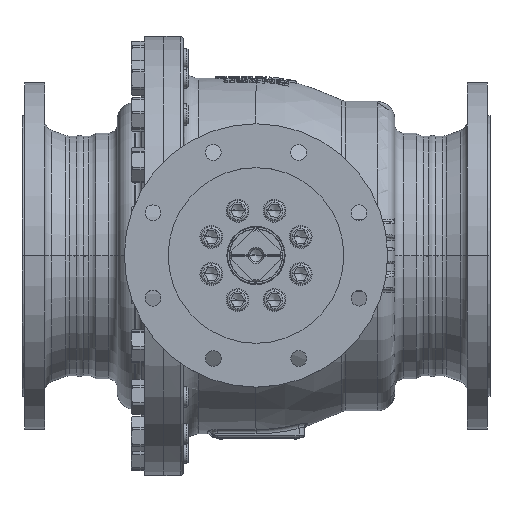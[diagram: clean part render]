
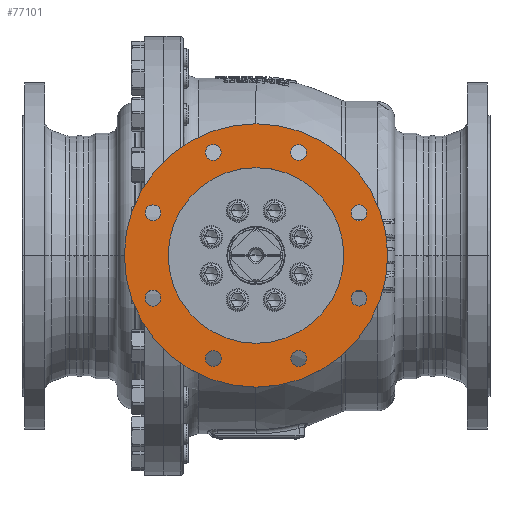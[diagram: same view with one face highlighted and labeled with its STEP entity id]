
A CAD part, top view. The second image highlights one B-rep face of the part: STEP entity #77101.
In plain terms, the highlighted planar face has unit normal (0, 0, 1).
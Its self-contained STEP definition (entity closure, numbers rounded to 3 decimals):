
#8684=CARTESIAN_POINT('',(0.,0.,349.));
#8685=DIRECTION('',(0.,0.,1.));
#8686=DIRECTION('',(1.,0.,0.));
#8687=AXIS2_PLACEMENT_3D('',#8684,#8685,#8686);
#8689=CARTESIAN_POINT('',(0.,0.,349.));
#8690=DIRECTION('',(0.,0.,-1.));
#8691=DIRECTION('',(1.,0.,0.));
#8692=AXIS2_PLACEMENT_3D('',#8689,#8690,#8691);
#8694=CARTESIAN_POINT('',(-117.333,48.601,349.));
#8695=DIRECTION('',(0.,0.,-1.));
#8696=DIRECTION('',(-1.,0.,0.));
#8697=AXIS2_PLACEMENT_3D('',#8694,#8695,#8696);
#8699=CARTESIAN_POINT('',(-117.333,48.601,349.));
#8700=DIRECTION('',(0.,0.,-1.));
#8701=DIRECTION('',(1.,0.,0.));
#8702=AXIS2_PLACEMENT_3D('',#8699,#8700,#8701);
#8704=CARTESIAN_POINT('',(-48.601,117.333,349.));
#8705=DIRECTION('',(0.,0.,-1.));
#8706=DIRECTION('',(-0.707,0.707,0.));
#8707=AXIS2_PLACEMENT_3D('',#8704,#8705,#8706);
#8709=CARTESIAN_POINT('',(-48.601,117.333,349.));
#8710=DIRECTION('',(0.,0.,-1.));
#8711=DIRECTION('',(0.707,-0.707,0.));
#8712=AXIS2_PLACEMENT_3D('',#8709,#8710,#8711);
#8714=CARTESIAN_POINT('',(48.601,117.333,349.));
#8715=DIRECTION('',(0.,0.,-1.));
#8716=DIRECTION('',(0.,1.,0.));
#8717=AXIS2_PLACEMENT_3D('',#8714,#8715,#8716);
#8719=CARTESIAN_POINT('',(48.601,117.333,349.));
#8720=DIRECTION('',(0.,0.,-1.));
#8721=DIRECTION('',(0.,-1.,0.));
#8722=AXIS2_PLACEMENT_3D('',#8719,#8720,#8721);
#8724=CARTESIAN_POINT('',(117.333,48.601,349.));
#8725=DIRECTION('',(0.,0.,-1.));
#8726=DIRECTION('',(0.707,0.707,0.));
#8727=AXIS2_PLACEMENT_3D('',#8724,#8725,#8726);
#8729=CARTESIAN_POINT('',(117.333,48.601,349.));
#8730=DIRECTION('',(0.,0.,-1.));
#8731=DIRECTION('',(-0.707,-0.707,0.));
#8732=AXIS2_PLACEMENT_3D('',#8729,#8730,#8731);
#8734=CARTESIAN_POINT('',(117.333,-48.601,349.));
#8735=DIRECTION('',(0.,0.,-1.));
#8736=DIRECTION('',(1.,0.,0.));
#8737=AXIS2_PLACEMENT_3D('',#8734,#8735,#8736);
#8739=CARTESIAN_POINT('',(117.333,-48.601,349.));
#8740=DIRECTION('',(0.,0.,-1.));
#8741=DIRECTION('',(-1.,0.,0.));
#8742=AXIS2_PLACEMENT_3D('',#8739,#8740,#8741);
#8744=CARTESIAN_POINT('',(48.601,-117.333,349.));
#8745=DIRECTION('',(0.,0.,-1.));
#8746=DIRECTION('',(0.707,-0.707,0.));
#8747=AXIS2_PLACEMENT_3D('',#8744,#8745,#8746);
#8749=CARTESIAN_POINT('',(48.601,-117.333,349.));
#8750=DIRECTION('',(0.,0.,-1.));
#8751=DIRECTION('',(-0.707,0.707,0.));
#8752=AXIS2_PLACEMENT_3D('',#8749,#8750,#8751);
#8754=CARTESIAN_POINT('',(-48.601,-117.333,349.));
#8755=DIRECTION('',(0.,0.,-1.));
#8756=DIRECTION('',(0.,-1.,0.));
#8757=AXIS2_PLACEMENT_3D('',#8754,#8755,#8756);
#8759=CARTESIAN_POINT('',(-48.601,-117.333,349.));
#8760=DIRECTION('',(0.,0.,-1.));
#8761=DIRECTION('',(0.,1.,0.));
#8762=AXIS2_PLACEMENT_3D('',#8759,#8760,#8761);
#8764=CARTESIAN_POINT('',(-117.333,-48.601,349.));
#8765=DIRECTION('',(0.,0.,-1.));
#8766=DIRECTION('',(-0.707,-0.707,0.));
#8767=AXIS2_PLACEMENT_3D('',#8764,#8765,#8766);
#8769=CARTESIAN_POINT('',(-117.333,-48.601,349.));
#8770=DIRECTION('',(0.,0.,-1.));
#8771=DIRECTION('',(0.707,0.707,0.));
#8772=AXIS2_PLACEMENT_3D('',#8769,#8770,#8771);
#8778=CARTESIAN_POINT('',(0.,0.,349.));
#8779=DIRECTION('',(0.,0.,-1.));
#8780=DIRECTION('',(1.,0.,0.));
#8781=AXIS2_PLACEMENT_3D('',#8778,#8779,#8780);
#8787=CARTESIAN_POINT('',(0.,0.,349.));
#8788=DIRECTION('',(0.,0.,1.));
#8789=DIRECTION('',(1.,0.,0.));
#8790=AXIS2_PLACEMENT_3D('',#8787,#8788,#8789);
#61461=CARTESIAN_POINT('',(100.,0.,349.));
#61463=VERTEX_POINT('',#61461);
#61465=CARTESIAN_POINT('',(-100.,0.,349.));
#61467=VERTEX_POINT('',#61465);
#61469=CARTESIAN_POINT('',(150.,0.,349.));
#61470=CARTESIAN_POINT('',(-150.,0.,349.));
#61471=VERTEX_POINT('',#61469);
#61472=VERTEX_POINT('',#61470);
#61605=CARTESIAN_POINT('',(-126.333,48.601,349.));
#61606=CARTESIAN_POINT('',(-108.333,48.601,349.));
#61607=VERTEX_POINT('',#61605);
#61608=VERTEX_POINT('',#61606);
#61609=CARTESIAN_POINT('',(-54.965,123.697,349.));
#61610=CARTESIAN_POINT('',(-42.237,110.969,349.));
#61611=VERTEX_POINT('',#61609);
#61612=VERTEX_POINT('',#61610);
#61613=CARTESIAN_POINT('',(48.601,126.333,349.));
#61614=CARTESIAN_POINT('',(48.601,108.333,349.));
#61615=VERTEX_POINT('',#61613);
#61616=VERTEX_POINT('',#61614);
#61617=CARTESIAN_POINT('',(123.697,54.965,349.));
#61618=CARTESIAN_POINT('',(110.969,42.237,349.));
#61619=VERTEX_POINT('',#61617);
#61620=VERTEX_POINT('',#61618);
#61621=CARTESIAN_POINT('',(126.333,-48.601,349.));
#61622=CARTESIAN_POINT('',(108.333,-48.601,349.));
#61623=VERTEX_POINT('',#61621);
#61624=VERTEX_POINT('',#61622);
#61625=CARTESIAN_POINT('',(54.965,-123.697,349.));
#61626=CARTESIAN_POINT('',(42.237,-110.969,349.));
#61627=VERTEX_POINT('',#61625);
#61628=VERTEX_POINT('',#61626);
#61629=CARTESIAN_POINT('',(-48.601,-126.333,349.));
#61630=CARTESIAN_POINT('',(-48.601,-108.333,349.));
#61631=VERTEX_POINT('',#61629);
#61632=VERTEX_POINT('',#61630);
#61633=CARTESIAN_POINT('',(-123.697,-54.965,349.));
#61634=CARTESIAN_POINT('',(-110.969,-42.237,349.));
#61635=VERTEX_POINT('',#61633);
#61636=VERTEX_POINT('',#61634);
#77038=CARTESIAN_POINT('',(0.,0.,349.));
#77039=DIRECTION('',(0.,0.,1.));
#77040=DIRECTION('',(1.,0.,0.));
#77041=AXIS2_PLACEMENT_3D('',#77038,#77039,#77040);
#77042=PLANE('',#77041);
#77043=ORIENTED_EDGE('',*,*,#77017,.F.);
#77044=ORIENTED_EDGE('',*,*,#77033,.T.);
#77045=EDGE_LOOP('',(#77043,#77044));
#77046=FACE_OUTER_BOUND('',#77045,.F.);
#77048=ORIENTED_EDGE('',*,*,#77047,.F.);
#77050=ORIENTED_EDGE('',*,*,#77049,.T.);
#77051=EDGE_LOOP('',(#77048,#77050));
#77052=FACE_BOUND('',#77051,.F.);
#77054=ORIENTED_EDGE('',*,*,#77053,.F.);
#77056=ORIENTED_EDGE('',*,*,#77055,.F.);
#77057=EDGE_LOOP('',(#77054,#77056));
#77058=FACE_BOUND('',#77057,.F.);
#77060=ORIENTED_EDGE('',*,*,#77059,.F.);
#77062=ORIENTED_EDGE('',*,*,#77061,.F.);
#77063=EDGE_LOOP('',(#77060,#77062));
#77064=FACE_BOUND('',#77063,.F.);
#77066=ORIENTED_EDGE('',*,*,#77065,.F.);
#77068=ORIENTED_EDGE('',*,*,#77067,.F.);
#77069=EDGE_LOOP('',(#77066,#77068));
#77070=FACE_BOUND('',#77069,.F.);
#77072=ORIENTED_EDGE('',*,*,#77071,.F.);
#77074=ORIENTED_EDGE('',*,*,#77073,.F.);
#77075=EDGE_LOOP('',(#77072,#77074));
#77076=FACE_BOUND('',#77075,.F.);
#77078=ORIENTED_EDGE('',*,*,#77077,.F.);
#77080=ORIENTED_EDGE('',*,*,#77079,.F.);
#77081=EDGE_LOOP('',(#77078,#77080));
#77082=FACE_BOUND('',#77081,.F.);
#77084=ORIENTED_EDGE('',*,*,#77083,.F.);
#77086=ORIENTED_EDGE('',*,*,#77085,.F.);
#77087=EDGE_LOOP('',(#77084,#77086));
#77088=FACE_BOUND('',#77087,.F.);
#77090=ORIENTED_EDGE('',*,*,#77089,.F.);
#77092=ORIENTED_EDGE('',*,*,#77091,.F.);
#77093=EDGE_LOOP('',(#77090,#77092));
#77094=FACE_BOUND('',#77093,.F.);
#77096=ORIENTED_EDGE('',*,*,#77095,.F.);
#77098=ORIENTED_EDGE('',*,*,#77097,.F.);
#77099=EDGE_LOOP('',(#77096,#77098));
#77100=FACE_BOUND('',#77099,.F.);
#77101=ADVANCED_FACE('',(#77046,#77052,#77058,#77064,#77070,#77076,#77082,
#77088,#77094,#77100),#77042,.T.);
#8688=CIRCLE('',#8687,150.);
#8693=CIRCLE('',#8692,150.);
#8698=CIRCLE('',#8697,9.);
#8703=CIRCLE('',#8702,9.);
#8708=CIRCLE('',#8707,9.);
#8713=CIRCLE('',#8712,9.);
#8718=CIRCLE('',#8717,9.);
#8723=CIRCLE('',#8722,9.);
#8728=CIRCLE('',#8727,9.);
#8733=CIRCLE('',#8732,9.);
#8738=CIRCLE('',#8737,9.);
#8743=CIRCLE('',#8742,9.);
#8748=CIRCLE('',#8747,9.);
#8753=CIRCLE('',#8752,9.);
#8758=CIRCLE('',#8757,9.);
#8763=CIRCLE('',#8762,9.);
#8768=CIRCLE('',#8767,9.);
#8773=CIRCLE('',#8772,9.);
#8782=CIRCLE('',#8781,100.);
#8791=CIRCLE('',#8790,100.);
#77017=EDGE_CURVE('',#61471,#61472,#8688,.T.);
#77033=EDGE_CURVE('',#61471,#61472,#8693,.T.);
#77047=EDGE_CURVE('',#61463,#61467,#8782,.T.);
#77049=EDGE_CURVE('',#61463,#61467,#8791,.T.);
#77053=EDGE_CURVE('',#61607,#61608,#8698,.T.);
#77055=EDGE_CURVE('',#61608,#61607,#8703,.T.);
#77059=EDGE_CURVE('',#61611,#61612,#8708,.T.);
#77061=EDGE_CURVE('',#61612,#61611,#8713,.T.);
#77065=EDGE_CURVE('',#61615,#61616,#8718,.T.);
#77067=EDGE_CURVE('',#61616,#61615,#8723,.T.);
#77071=EDGE_CURVE('',#61619,#61620,#8728,.T.);
#77073=EDGE_CURVE('',#61620,#61619,#8733,.T.);
#77077=EDGE_CURVE('',#61623,#61624,#8738,.T.);
#77079=EDGE_CURVE('',#61624,#61623,#8743,.T.);
#77083=EDGE_CURVE('',#61627,#61628,#8748,.T.);
#77085=EDGE_CURVE('',#61628,#61627,#8753,.T.);
#77089=EDGE_CURVE('',#61631,#61632,#8758,.T.);
#77091=EDGE_CURVE('',#61632,#61631,#8763,.T.);
#77095=EDGE_CURVE('',#61635,#61636,#8768,.T.);
#77097=EDGE_CURVE('',#61636,#61635,#8773,.T.);
